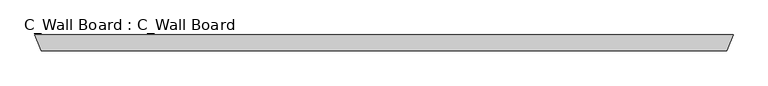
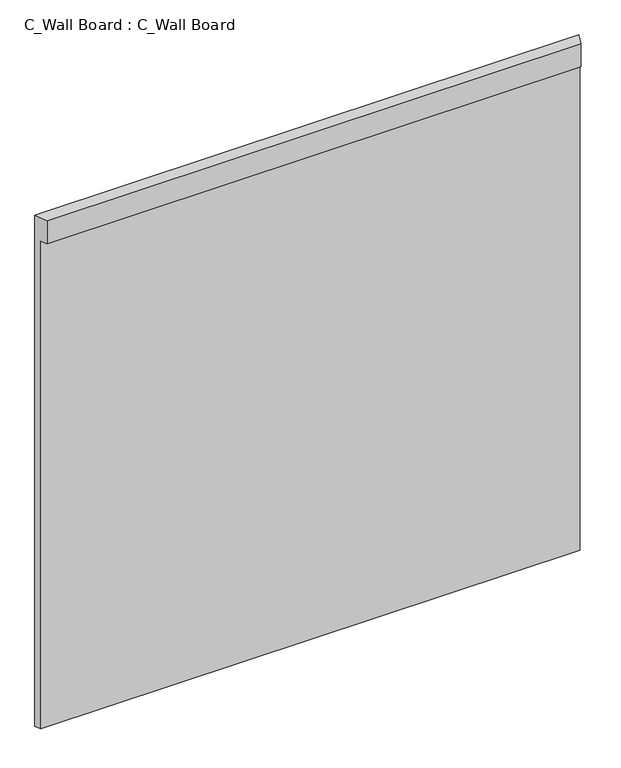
"""IFC4 building model written with IfcOpenShell, lengths in millimetres: proxy geometry, C_Wall Board : C_Wall Board."""

from ifc_helpers import new_model, si_unit, origin, place, context, project, spatial, faceted_brep, source, transform, mapped, element, save


def c_wall_board_c_wall_board_67e629dd(model_context):
    return source(origin(), model_context, "Body", "Brep", [
        faceted_brep([(1126.6256121, 0.0, 1117.6), (1126.6256121, 0.0, 0.0), (0.0, 0.0, 0.0), (0.0, 0.0, 1117.6), (1116.1045876, -25.4, 1117.6), (10.5210245, -25.4, 1117.6), (1116.1045876, -25.4, 1066.8), (1121.3650999, -12.7, 1066.8), (1121.3650999, -12.7, 0.0), (5.2605122, -12.7, 0.0), (5.2605122, -12.7, 1066.8), (10.5210245, -25.4, 1066.8)], [[[0, 1, 2, 3]], [[4, 0, 3, 5]], [[1, 0, 4, 6, 7, 8]], [[3, 2, 9, 10, 11, 5]], [[8, 7, 10, 9]], [[1, 8, 9, 2]], [[6, 4, 5, 11]], [[7, 6, 11, 10]]]),
    ])


if __name__ == "__main__":
    model = new_model("IFC4")
    model_context = context("Model", 3, world=origin())
    ifc_project = project(units=[si_unit("LENGTHUNIT", "METRE", prefix="MILLI")], contexts=[model_context])
    site = spatial("IfcSite", under=ifc_project)
    building = spatial("IfcBuilding", under=site)
    placement = place(None, origin())
    c_wall_board_c_wall_board_shape = c_wall_board_c_wall_board_67e629dd(model_context)
    element("IfcBuildingElementProxy", 1, Name="C_Wall Board : C_Wall Board", ObjectType="C_Wall Board : C_Wall Board", at=placement, inside=building, context=model_context, shape_type="MappedRepresentation", body=[
        mapped(c_wall_board_c_wall_board_shape, transform((0.0, 0.0, 0.0), x_axis=(1.0, 0.0, 0.0), y_axis=(0.0, 1.0, 0.0), z_axis=(0.0, 0.0, 1.0))),
    ])
    save(model, "model.ifc")
